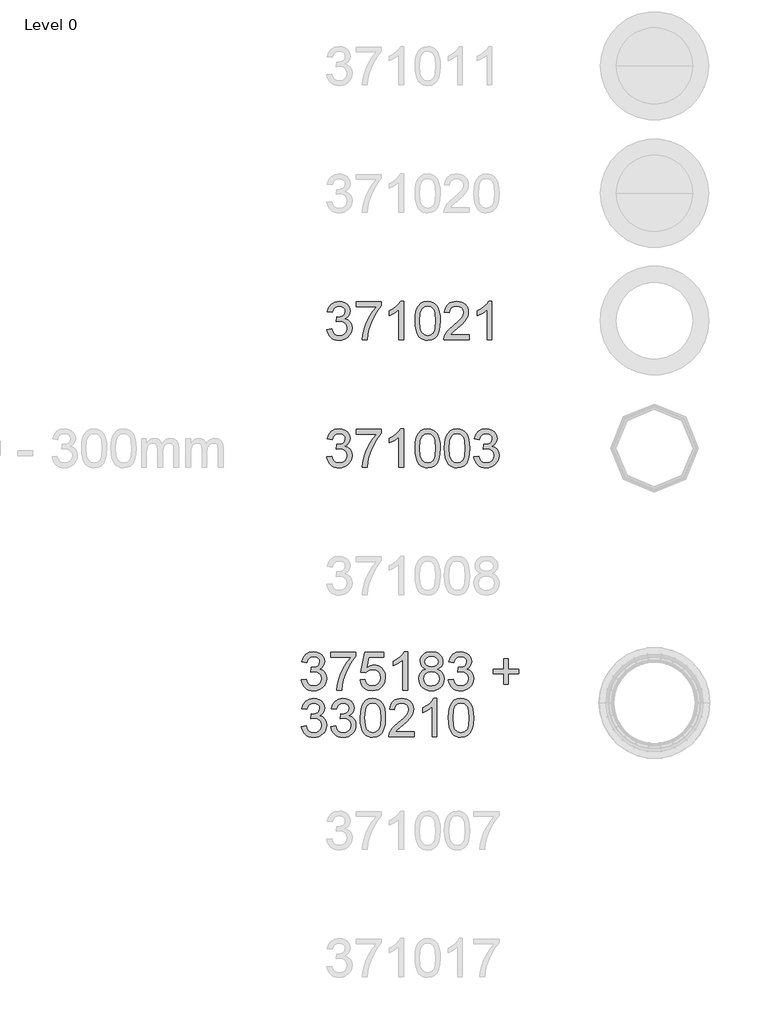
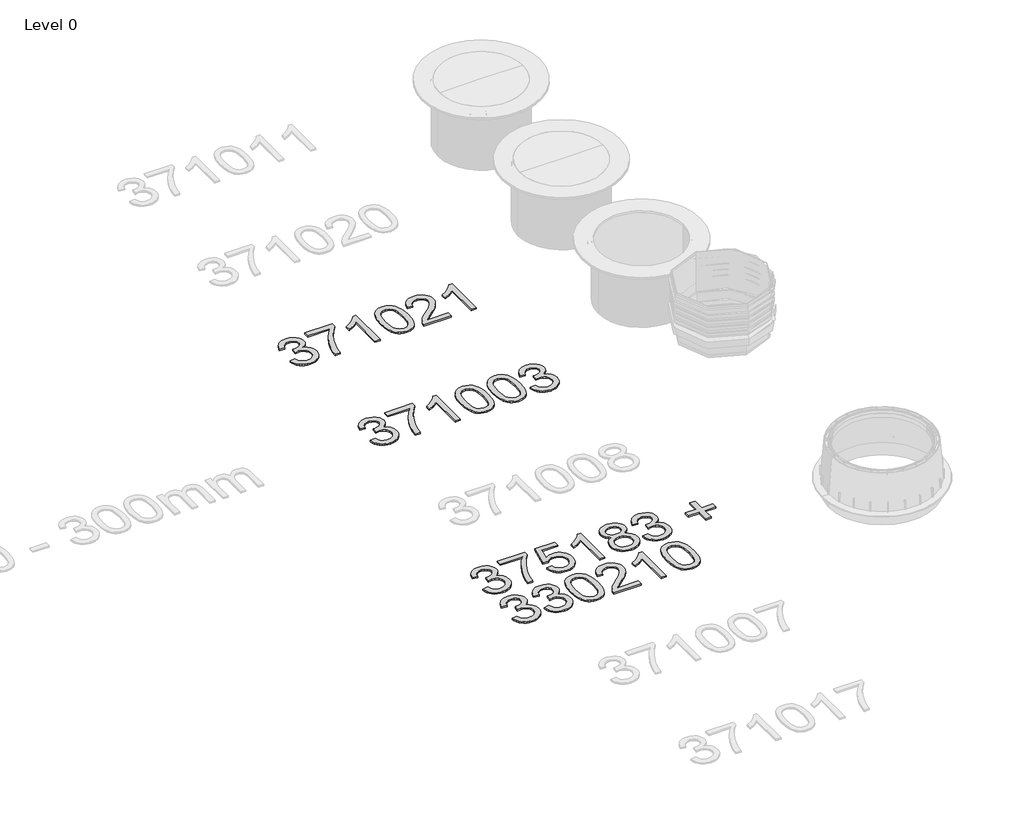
# One storey, part 10 of 19: 3 proxies.
"""IFC4 building model written with IfcOpenShell, lengths in millimetres."""

from ifc_helpers import new_model, si_unit, origin, origin_with_axes, place, context, project, spatial, polyline, outline, extrude, element, save

model = new_model("IFC4")

# Units and contexts
model_context = context("Model", 3, world=origin())
ifc_project = project(units=[si_unit("LENGTHUNIT", "METRE", prefix="MILLI")], contexts=[model_context])

# Site, building, storey
site = spatial("IfcSite", under=ifc_project)
building = spatial("IfcBuilding", under=site)
storey = spatial("IfcBuildingStorey", under=building, Name="Level 0", Elevation=0.0)

# Proxies
placement = place(None, origin())
element("IfcBuildingElementProxy", 1, Name="300mm Arial", ObjectType="300mm Arial", at=placement, inside=storey, context=model_context, shape_type="SweptSolid", body=[
    extrude(outline(polyline([(-6342.0538732, -12120.650521), (-6304.3827568, -12115.9416315), (-6295.9490621, -12139.6148379), (-6283.5974241, -12155.5993106), (-6266.7208376, -12164.7043899), (-6244.7122972, -12167.7394164), (-6218.8869812, -12163.5639558), (-6198.947777, -12151.0375738), (-6186.2006659, -12132.3491685), (-6181.9516289, -12109.6876376), (-6186.1638777, -12088.1757379), (-6198.8006242, -12070.7289343), (-6217.930488, -12059.1682426), (-6241.6220885, -12055.3146787), (-6268.0360157, -12059.434957), (-6263.842161, -12021.7638407), (-6257.8088963, -12022.2052991), (-6235.2393359, -12019.5013664), (-6215.0610084, -12011.3895685), (-6200.8239752, -11997.66757), (-6196.0782975, -11978.1330361), (-6199.5179941, -11961.8634549), (-6209.8370841, -11948.6656883), (-6225.5824335, -11939.9192938), (-6245.3009084, -11937.003829), (-6265.0561716, -11939.946885), (-6281.2061912, -11948.7760529), (-6292.9968091, -11963.4913327), (-6299.6738673, -11984.0927244), (-6337.3449836, -11979.3838349), (-6326.2533415, -11945.5570854), (-6306.5164724, -11920.3019864), (-6279.513934, -11904.5750312), (-6246.6252836, -11899.3327127), (-6222.9428802, -11901.9170837), (-6201.1918572, -11909.6701968), (-6182.8529397, -11921.9022731), (-6169.4068528, -11937.923534), (-6161.1570991, -11956.3820131), (-6158.4071812, -11975.9257441), (-6161.0191433, -11994.1359029), (-6168.8550298, -12010.6538045), (-6181.8044761, -12024.7252908), (-6199.7571174, -12035.5962037), (-6176.1758815, -12045.1243474), (-6158.7014868, -12061.3479434), (-6147.8857561, -12083.3840749), (-6144.2805125, -12110.3498252), (-6146.0831343, -12129.4612948), (-6151.4909997, -12147.0644483), (-6160.5041085, -12163.1592856), (-6173.122461, -12177.7458067), (-6188.4953298, -12189.8491243), (-6205.771988, -12198.4943512), (-6224.9524356, -12203.6814873), (-6246.0366724, -12205.4105327), (-6265.0929598, -12203.9344062), (-6282.4569899, -12199.5060267), (-6298.1287629, -12192.1253942), (-6312.1082787, -12181.7925086), (-6323.8299188, -12169.1143754), (-6332.7280646, -12154.6979997), (-6338.802716, -12138.5433816), (-6342.0538732, -12120.650521)])), origin_with_axes(), (0.0, 0.0, 1.0), 10.0),
    extrude(outline(polyline([(-6111.3182858, -11941.7127186), (-6111.3182858, -11904.0416023), (-5913.5449252, -11904.0416023), (-5913.5449252, -11934.5022315), (-5941.7338831, -11970.1775879), (-5969.6469294, -12015.546635), (-5994.267432, -12066.4707002), (-6012.5787583, -12118.811111), (-6021.555079, -12157.9721494), (-6026.5582741, -12200.7016432), (-6064.2293904, -12200.7016432), (-6060.1550973, -12161.8716986), (-6049.2565932, -12115.7209023), (-6031.8281837, -12066.801794), (-6008.1641743, -12019.6669133), (-5980.5362365, -11977.0569813), (-5951.2160415, -11941.7127186), (-6111.3182858, -11941.7127186)])), origin_with_axes(), (0.0, 0.0, 1.0), 10.0),
    extrude(outline(polyline([(-5739.3160123, -12200.7016432), (-5776.9871286, -12200.7016432), (-5776.9871286, -11965.8457775), (-5812.6716821, -11991.2664233), (-5852.3293612, -12010.2859225), (-5852.3293612, -11974.6749453), (-5822.7424517, -11958.580108), (-5797.1102737, -11939.4318502), (-5776.9043551, -11919.0695818), (-5763.5962239, -11899.3327127), (-5739.3160123, -11899.3327127), (-5739.3160123, -12200.7016432)])), origin_with_axes(), (0.0, 0.0, 1.0), 10.0),
    extrude(outline(polyline([(-5649.847111, -12052.4451991), (-5647.078799, -12004.2066725), (-5638.773863, -11965.7354129), (-5625.0150764, -11936.442809), (-5605.8852126, -11915.7402497), (-5581.246316, -11903.434597), (-5550.9604307, -11899.3327127), (-5527.7470768, -11901.7607339), (-5506.9617441, -11909.0447974), (-5489.5793198, -11920.8997947), (-5476.5746913, -11937.0406172), (-5466.752242, -11957.3293093), (-5458.9163555, -11981.627915), (-5453.7844017, -12012.4840174), (-5452.0737504, -12052.4451991), (-5454.8144713, -12100.4078142), (-5463.0366339, -12138.7871034), (-5476.7126471, -12168.1072984), (-5495.8149197, -12188.8926311), (-5520.5089986, -12201.2810573), (-5550.9604307, -12205.4105327), (-5571.7089753, -12203.617108), (-5590.103075, -12198.2368338), (-5606.14273, -12189.2697102), (-5619.8279402, -12176.7157371), (-5632.9613275, -12154.0220165), (-5642.3423183, -12125.7456867), (-5647.9709129, -12091.8867475), (-5649.847111, -12052.4451991)]), holes=[polyline([(-5612.1759947, -12052.3716227), (-5607.7614108, -12111.6282151), (-5602.2431809, -12131.8962138), (-5594.517659, -12145.9240141), (-5574.799184, -12162.2855658), (-5550.9604307, -12167.7394164), (-5527.1216774, -12162.2671717), (-5507.4032025, -12145.8504377), (-5499.6776806, -12131.7996447), (-5494.1594507, -12111.5362446), (-5489.7448667, -12052.3716227), (-5494.0122979, -11994.4486026), (-5499.3465868, -11974.2472825), (-5506.8145913, -11959.8860891), (-5526.496278, -11942.7243941), (-5551.4018891, -11937.003829), (-5574.983125, -11942.0438124), (-5593.9290478, -11957.1637624), (-5601.9120871, -11972.7987472), (-5607.614258, -11993.8783855), (-5612.1759947, -12052.3716227)])]), origin_with_axes(), (0.0, 0.0, 1.0), 10.0),
    extrude(outline(polyline([(-5226.0470526, -12163.0305269), (-5226.0470526, -12200.7016432), (-5423.8204132, -12200.7016432), (-5419.7737112, -12174.7291743), (-5410.4846909, -12154.4312852), (-5396.8914511, -12134.7404014), (-5377.2281585, -12114.1298127), (-5349.7289794, -12091.0728086), (-5309.0780189, -12054.9651908), (-5284.6874426, -12028.3121402), (-5272.4921545, -12006.6806789), (-5268.4270584, -11985.6378288), (-5272.2622282, -11966.7746795), (-5283.7677376, -11951.0937094), (-5301.4536645, -11940.5262991), (-5323.8300869, -11937.003829), (-5347.3285493, -11940.4435257), (-5365.5846934, -11950.7626156), (-5377.3661143, -11967.1517585), (-5381.4404073, -11988.801614), (-5419.1115237, -11984.0927244), (-5409.9788531, -11947.6540128), (-5401.4324945, -11933.1180755), (-5390.232787, -11921.0377504), (-5376.6372481, -11911.5417964), (-5360.903395, -11904.7589722), (-5323.0207465, -11899.3327127), (-5302.8309228, -11900.8410289), (-5284.8621866, -11905.3659774), (-5269.1145379, -11912.9075583), (-5255.5879768, -11923.4657716), (-5244.7239616, -11936.258868), (-5236.9639508, -11950.5050983), (-5232.3079443, -11966.2044624), (-5230.7559421, -11983.3569604), (-5232.4298052, -12001.3739811), (-5237.4513944, -12019.0783022), (-5246.3633358, -12037.0861258), (-5259.7082551, -12056.0136545), (-5280.9810315, -12078.610806), (-5313.6765438, -12107.6274984), (-5357.0130429, -12143.8638749), (-5374.009191, -12163.0305269), (-5226.0470526, -12163.0305269)])), origin_with_axes(), (0.0, 0.0, 1.0), 10.0),
    extrude(outline(polyline([(-5047.1092501, -12200.7016432), (-5084.7803664, -12200.7016432), (-5084.7803664, -11965.8457775), (-5120.46492, -11991.2664233), (-5160.1225991, -12010.2859225), (-5160.1225991, -11974.6749453), (-5130.5356896, -11958.580108), (-5104.9035116, -11939.4318502), (-5084.697593, -11919.0695818), (-5071.3894618, -11899.3327127), (-5047.1092501, -11899.3327127), (-5047.1092501, -12200.7016432)])), origin_with_axes(), (0.0, 0.0, 1.0), 10.0),
])
element("IfcBuildingElementProxy", 2, Name="300mm Arial", ObjectType="300mm Arial", at=placement, inside=storey, context=model_context, shape_type="SweptSolid", body=[
    extrude(outline(polyline([(-6342.0538732, -13120.650521), (-6304.3827568, -13115.9416315), (-6295.9490621, -13139.6148379), (-6283.5974241, -13155.5993106), (-6266.7208376, -13164.7043899), (-6244.7122972, -13167.7394164), (-6218.8869812, -13163.5639558), (-6198.947777, -13151.0375738), (-6186.2006659, -13132.3491685), (-6181.9516289, -13109.6876376), (-6186.1638777, -13088.1757379), (-6198.8006242, -13070.7289343), (-6217.930488, -13059.1682426), (-6241.6220885, -13055.3146787), (-6268.0360157, -13059.434957), (-6263.842161, -13021.7638407), (-6257.8088963, -13022.2052991), (-6235.2393359, -13019.5013664), (-6215.0610084, -13011.3895685), (-6200.8239752, -12997.66757), (-6196.0782975, -12978.1330361), (-6199.5179941, -12961.8634549), (-6209.8370841, -12948.6656883), (-6225.5824335, -12939.9192938), (-6245.3009084, -12937.003829), (-6265.0561716, -12939.946885), (-6281.2061912, -12948.7760529), (-6292.9968091, -12963.4913327), (-6299.6738673, -12984.0927244), (-6337.3449836, -12979.3838349), (-6326.2533415, -12945.5570854), (-6306.5164724, -12920.3019864), (-6279.513934, -12904.5750312), (-6246.6252836, -12899.3327127), (-6222.9428802, -12901.9170837), (-6201.1918572, -12909.6701968), (-6182.8529397, -12921.9022731), (-6169.4068528, -12937.923534), (-6161.1570991, -12956.3820131), (-6158.4071812, -12975.9257441), (-6161.0191433, -12994.1359029), (-6168.8550298, -13010.6538045), (-6181.8044761, -13024.7252908), (-6199.7571174, -13035.5962037), (-6176.1758815, -13045.1243474), (-6158.7014868, -13061.3479434), (-6147.8857561, -13083.3840749), (-6144.2805125, -13110.3498252), (-6146.0831343, -13129.4612948), (-6151.4909997, -13147.0644483), (-6160.5041085, -13163.1592856), (-6173.122461, -13177.7458067), (-6188.4953298, -13189.8491243), (-6205.771988, -13198.4943512), (-6224.9524356, -13203.6814873), (-6246.0366724, -13205.4105327), (-6265.0929598, -13203.9344062), (-6282.4569899, -13199.5060267), (-6298.1287629, -13192.1253942), (-6312.1082787, -13181.7925086), (-6323.8299188, -13169.1143754), (-6332.7280646, -13154.6979997), (-6338.802716, -13138.5433816), (-6342.0538732, -13120.650521)])), origin_with_axes(), (0.0, 0.0, 1.0), 10.0),
    extrude(outline(polyline([(-6111.3182858, -12941.7127186), (-6111.3182858, -12904.0416023), (-5913.5449252, -12904.0416023), (-5913.5449252, -12934.5022315), (-5941.7338831, -12970.1775879), (-5969.6469294, -13015.546635), (-5994.267432, -13066.4707002), (-6012.5787583, -13118.811111), (-6021.555079, -13157.9721494), (-6026.5582741, -13200.7016432), (-6064.2293904, -13200.7016432), (-6060.1550973, -13161.8716986), (-6049.2565932, -13115.7209023), (-6031.8281837, -13066.801794), (-6008.1641743, -13019.6669133), (-5980.5362365, -12977.0569813), (-5951.2160415, -12941.7127186), (-6111.3182858, -12941.7127186)])), origin_with_axes(), (0.0, 0.0, 1.0), 10.0),
    extrude(outline(polyline([(-5739.3160123, -13200.7016432), (-5776.9871286, -13200.7016432), (-5776.9871286, -12965.8457775), (-5812.6716821, -12991.2664233), (-5852.3293612, -13010.2859225), (-5852.3293612, -12974.6749453), (-5822.7424517, -12958.580108), (-5797.1102737, -12939.4318502), (-5776.9043551, -12919.0695818), (-5763.5962239, -12899.3327127), (-5739.3160123, -12899.3327127), (-5739.3160123, -13200.7016432)])), origin_with_axes(), (0.0, 0.0, 1.0), 10.0),
    extrude(outline(polyline([(-5649.847111, -13052.4451991), (-5647.078799, -13004.2066725), (-5638.773863, -12965.7354129), (-5625.0150764, -12936.442809), (-5605.8852126, -12915.7402497), (-5581.246316, -12903.434597), (-5550.9604307, -12899.3327127), (-5527.7470768, -12901.7607339), (-5506.9617441, -12909.0447974), (-5489.5793198, -12920.8997947), (-5476.5746913, -12937.0406172), (-5466.752242, -12957.3293093), (-5458.9163555, -12981.627915), (-5453.7844017, -13012.4840174), (-5452.0737504, -13052.4451991), (-5454.8144713, -13100.4078142), (-5463.0366339, -13138.7871034), (-5476.7126471, -13168.1072984), (-5495.8149197, -13188.8926311), (-5520.5089986, -13201.2810573), (-5550.9604307, -13205.4105327), (-5571.7089753, -13203.617108), (-5590.103075, -13198.2368338), (-5606.14273, -13189.2697102), (-5619.8279402, -13176.7157371), (-5632.9613275, -13154.0220165), (-5642.3423183, -13125.7456867), (-5647.9709129, -13091.8867475), (-5649.847111, -13052.4451991)]), holes=[polyline([(-5612.1759947, -13052.3716227), (-5607.7614108, -13111.6282151), (-5602.2431809, -13131.8962138), (-5594.517659, -13145.9240141), (-5574.799184, -13162.2855658), (-5550.9604307, -13167.7394164), (-5527.1216774, -13162.2671717), (-5507.4032025, -13145.8504377), (-5499.6776806, -13131.7996447), (-5494.1594507, -13111.5362446), (-5489.7448667, -13052.3716227), (-5494.0122979, -12994.4486026), (-5499.3465868, -12974.2472825), (-5506.8145913, -12959.8860891), (-5526.496278, -12942.7243941), (-5551.4018891, -12937.003829), (-5574.983125, -12942.0438124), (-5593.9290478, -12957.1637624), (-5601.9120871, -12972.7987472), (-5607.614258, -12993.8783855), (-5612.1759947, -13052.3716227)])]), origin_with_axes(), (0.0, 0.0, 1.0), 10.0),
    extrude(outline(polyline([(-5419.1115237, -13052.4451991), (-5416.3432116, -13004.2066725), (-5408.0382756, -12965.7354129), (-5394.279489, -12936.442809), (-5375.1496252, -12915.7402497), (-5350.5107286, -12903.434597), (-5320.2248434, -12899.3327127), (-5297.0114895, -12901.7607339), (-5276.2261567, -12909.0447974), (-5258.8437325, -12920.8997947), (-5245.8391039, -12937.0406172), (-5236.0166547, -12957.3293093), (-5228.1807682, -12981.627915), (-5223.0488143, -13012.4840174), (-5221.338163, -13052.4451991), (-5224.0788839, -13100.4078142), (-5232.3010465, -13138.7871034), (-5245.9770597, -13168.1072984), (-5265.0793323, -13188.8926311), (-5289.7734112, -13201.2810573), (-5320.2248434, -13205.4105327), (-5340.9733879, -13203.617108), (-5359.3674876, -13198.2368338), (-5375.4071426, -13189.2697102), (-5389.0923528, -13176.7157371), (-5402.2257401, -13154.0220165), (-5411.606731, -13125.7456867), (-5417.2353255, -13091.8867475), (-5419.1115237, -13052.4451991)]), holes=[polyline([(-5381.4404073, -13052.3716227), (-5377.0258234, -13111.6282151), (-5371.5075935, -13131.8962138), (-5363.7820716, -13145.9240141), (-5344.0635966, -13162.2855658), (-5320.2248434, -13167.7394164), (-5296.3860901, -13162.2671717), (-5276.6676151, -13145.8504377), (-5268.9420932, -13131.7996447), (-5263.4238633, -13111.5362446), (-5259.0092794, -13052.3716227), (-5263.2767105, -12994.4486026), (-5268.6109994, -12974.2472825), (-5276.0790039, -12959.8860891), (-5295.7606907, -12942.7243941), (-5320.6663017, -12937.003829), (-5344.2475376, -12942.0438124), (-5363.1934604, -12957.1637624), (-5371.1764997, -12972.7987472), (-5376.8786706, -12993.8783855), (-5381.4404073, -13052.3716227)])]), origin_with_axes(), (0.0, 0.0, 1.0), 10.0),
    extrude(outline(polyline([(-5188.3759363, -13120.650521), (-5150.70482, -13115.9416315), (-5142.2711252, -13139.6148379), (-5129.9194872, -13155.5993106), (-5113.0429007, -13164.7043899), (-5091.0343604, -13167.7394164), (-5065.2090443, -13163.5639558), (-5045.2698402, -13151.0375738), (-5032.522729, -13132.3491685), (-5028.273692, -13109.6876376), (-5032.4859408, -13088.1757379), (-5045.1226874, -13070.7289343), (-5064.2525511, -13059.1682426), (-5087.9441516, -13055.3146787), (-5114.3580789, -13059.434957), (-5110.1642241, -13021.7638407), (-5104.1309594, -13022.2052991), (-5081.561399, -13019.5013664), (-5061.3830715, -13011.3895685), (-5047.1460383, -12997.66757), (-5042.4003606, -12978.1330361), (-5045.8400572, -12961.8634549), (-5056.1591472, -12948.6656883), (-5071.9044966, -12939.9192938), (-5091.6229715, -12937.003829), (-5111.3782347, -12939.946885), (-5127.5282543, -12948.7760529), (-5139.3188722, -12963.4913327), (-5145.9959304, -12984.0927244), (-5183.6670467, -12979.3838349), (-5172.5754046, -12945.5570854), (-5152.8385355, -12920.3019864), (-5125.8359971, -12904.5750312), (-5092.9473467, -12899.3327127), (-5069.2649433, -12901.9170837), (-5047.5139203, -12909.6701968), (-5029.1750029, -12921.9022731), (-5015.7289159, -12937.923534), (-5007.4791622, -12956.3820131), (-5004.7292443, -12975.9257441), (-5007.3412065, -12994.1359029), (-5015.177093, -13010.6538045), (-5028.1265392, -13024.7252908), (-5046.0791805, -13035.5962037), (-5022.4979447, -13045.1243474), (-5005.0235499, -13061.3479434), (-4994.2078192, -13083.3840749), (-4990.6025757, -13110.3498252), (-4992.4051975, -13129.4612948), (-4997.8130628, -13147.0644483), (-5006.8261717, -13163.1592856), (-5019.4445241, -13177.7458067), (-5034.817393, -13189.8491243), (-5052.0940512, -13198.4943512), (-5071.2744987, -13203.6814873), (-5092.3587355, -13205.4105327), (-5111.4150229, -13203.9344062), (-5128.7790531, -13199.5060267), (-5144.4508261, -13192.1253942), (-5158.4303419, -13181.7925086), (-5170.1519819, -13169.1143754), (-5179.0501277, -13154.6979997), (-5185.1247791, -13138.5433816), (-5188.3759363, -13120.650521)])), origin_with_axes(), (0.0, 0.0, 1.0), 10.0),
])
element("IfcBuildingElementProxy", 3, Name="300mm Arial", ObjectType="300mm Arial", at=placement, inside=storey, context=model_context, shape_type="SweptSolid", body=[
    extrude(outline(polyline([(-6542.0538732, -14870.650521), (-6504.3827568, -14865.9416315), (-6495.9490621, -14889.6148379), (-6483.5974241, -14905.5993106), (-6466.7208376, -14914.7043899), (-6444.7122972, -14917.7394164), (-6418.8869812, -14913.5639558), (-6398.947777, -14901.0375738), (-6386.2006659, -14882.3491685), (-6381.9516289, -14859.6876376), (-6386.1638777, -14838.1757379), (-6398.8006242, -14820.7289343), (-6417.930488, -14809.1682426), (-6441.6220885, -14805.3146787), (-6468.0360157, -14809.434957), (-6463.842161, -14771.7638407), (-6457.8088963, -14772.2052991), (-6435.2393359, -14769.5013664), (-6415.0610084, -14761.3895685), (-6400.8239752, -14747.66757), (-6396.0782975, -14728.1330361), (-6399.5179941, -14711.8634549), (-6409.8370841, -14698.6656883), (-6425.5824335, -14689.9192938), (-6445.3009084, -14687.003829), (-6465.0561716, -14689.946885), (-6481.2061912, -14698.7760529), (-6492.9968091, -14713.4913327), (-6499.6738673, -14734.0927244), (-6537.3449836, -14729.3838349), (-6526.2533415, -14695.5570854), (-6506.5164724, -14670.3019864), (-6479.513934, -14654.5750312), (-6446.6252836, -14649.3327127), (-6422.9428802, -14651.9170837), (-6401.1918572, -14659.6701968), (-6382.8529397, -14671.9022731), (-6369.4068528, -14687.923534), (-6361.1570991, -14706.3820131), (-6358.4071812, -14725.9257441), (-6361.0191433, -14744.1359029), (-6368.8550298, -14760.6538045), (-6381.8044761, -14774.7252908), (-6399.7571174, -14785.5962037), (-6376.1758815, -14795.1243474), (-6358.7014868, -14811.3479434), (-6347.8857561, -14833.3840749), (-6344.2805125, -14860.3498252), (-6346.0831343, -14879.4612948), (-6351.4909997, -14897.0644483), (-6360.5041085, -14913.1592856), (-6373.122461, -14927.7458067), (-6388.4953298, -14939.8491243), (-6405.771988, -14948.4943512), (-6424.9524356, -14953.6814873), (-6446.0366724, -14955.4105327), (-6465.0929598, -14953.9344062), (-6482.4569899, -14949.5060267), (-6498.1287629, -14942.1253942), (-6512.1082787, -14931.7925086), (-6523.8299188, -14919.1143754), (-6532.7280646, -14904.6979997), (-6538.802716, -14888.5433816), (-6542.0538732, -14870.650521)])), origin_with_axes(), (0.0, 0.0, 1.0), 10.0),
    extrude(outline(polyline([(-6311.3182858, -14691.7127186), (-6311.3182858, -14654.0416023), (-6113.5449252, -14654.0416023), (-6113.5449252, -14684.5022315), (-6141.7338831, -14720.1775879), (-6169.6469294, -14765.546635), (-6194.267432, -14816.4707002), (-6212.5787583, -14868.811111), (-6221.555079, -14907.9721494), (-6226.5582741, -14950.7016432), (-6264.2293904, -14950.7016432), (-6260.1550973, -14911.8716986), (-6249.2565932, -14865.7209023), (-6231.8281837, -14816.801794), (-6208.1641743, -14769.6669133), (-6180.5362365, -14727.0569813), (-6151.2160415, -14691.7127186), (-6311.3182858, -14691.7127186)])), origin_with_axes(), (0.0, 0.0, 1.0), 10.0),
    extrude(outline(polyline([(-6080.5826984, -14870.650521), (-6042.9115821, -14865.9416315), (-6035.9954006, -14888.5571771), (-6023.9288711, -14904.753182), (-6006.7671761, -14914.4928578), (-5984.5654977, -14917.7394164), (-5957.5629592, -14913.2236649), (-5937.3294495, -14899.6764104), (-5924.6927029, -14878.6611515), (-5920.4804541, -14851.7413865), (-5924.4259885, -14826.394317), (-5936.2625917, -14807.0069359), (-5956.0822342, -14794.7012831), (-5983.9768865, -14790.5993989), (-6002.2514246, -14792.2364738), (-6017.0494778, -14797.1476984), (-6038.2026926, -14814.1438466), (-6075.8738089, -14809.434957), (-6042.9115821, -14654.0416023), (-5896.9360064, -14654.0416023), (-5896.9360064, -14691.7127186), (-6012.4509529, -14691.7127186), (-6028.5641843, -14774.7068967), (-6001.6536163, -14758.3729361), (-5973.4554614, -14752.9282826), (-5955.1096462, -14754.6159412), (-5938.2583515, -14759.6789172), (-5922.9015775, -14768.1172104), (-5909.0393241, -14779.930821), (-5897.5637051, -14794.3977805), (-5889.3668344, -14810.7961204), (-5884.4487119, -14829.1258408), (-5882.8093378, -14849.3869417), (-5888.7138438, -14887.058058), (-5896.0944763, -14903.8518711), (-5906.4273619, -14919.2845208), (-5922.0807408, -14935.089651), (-5940.3460818, -14946.3790297), (-5961.2233851, -14953.152657), (-5984.7126505, -14955.4105327), (-6021.7123821, -14949.6071942), (-6037.3910529, -14942.3530211), (-6051.188927, -14932.1971788), (-6062.6691445, -14919.645505), (-6071.3948456, -14905.2038374), (-6080.5826984, -14870.650521)])), origin_with_axes(), (0.0, 0.0, 1.0), 10.0),
    extrude(outline(polyline([(-5708.5804249, -14950.7016432), (-5746.2515412, -14950.7016432), (-5746.2515412, -14715.8457775), (-5781.9360947, -14741.2664233), (-5821.5937738, -14760.2859225), (-5821.5937738, -14724.6749453), (-5792.0068643, -14708.580108), (-5766.3746863, -14689.4318502), (-5746.1687677, -14669.0695818), (-5732.8606366, -14649.3327127), (-5708.5804249, -14649.3327127), (-5708.5804249, -14950.7016432)])), origin_with_axes(), (0.0, 0.0, 1.0), 10.0),
    extrude(outline(polyline([(-5564.22353, -14784.7132869), (-5584.3926604, -14774.7804731), (-5598.5469201, -14761.3159921), (-5606.9070385, -14744.5957554), (-5609.6937446, -14724.8956745), (-5608.1762313, -14709.5320027), (-5603.6236917, -14695.4467208), (-5596.0361255, -14682.6398289), (-5585.4135329, -14671.1113268), (-5572.2663501, -14661.5831832), (-5557.1050134, -14654.7773663), (-5520.7398781, -14649.3327127), (-5484.1540137, -14654.906125), (-5468.8271301, -14661.8728902), (-5455.4776122, -14671.6263616), (-5444.6618815, -14683.3801914), (-5436.9363596, -14696.3480317), (-5432.3010465, -14710.5298826), (-5430.7559421, -14725.9257441), (-5433.50586, -14744.9912285), (-5441.7556138, -14761.4263567), (-5455.5971738, -14774.8080642), (-5475.1225107, -14784.7132869), (-5451.936748, -14796.6602547), (-5435.0601615, -14814.2542112), (-5424.7686627, -14836.6490276), (-5421.338163, -14862.9985755), (-5423.0396173, -14881.7881484), (-5428.14398, -14899.0142229), (-5436.6512511, -14914.6767988), (-5448.5614307, -14928.7758763), (-5463.2491193, -14940.4285385), (-5480.0889177, -14948.7518686), (-5499.0808257, -14953.7458667), (-5520.2248434, -14955.4105327), (-5541.368861, -14953.7389689), (-5560.360769, -14948.7242774), (-5577.2005674, -14940.3664584), (-5591.888256, -14928.6655117), (-5603.7984356, -14914.4675659), (-5612.3057067, -14898.6187497), (-5617.4100694, -14881.119063), (-5619.1115237, -14861.9685059), (-5615.5430683, -14834.5980855), (-5604.8377022, -14812.0837074), (-5587.5472485, -14795.1979238), (-5564.22353, -14784.7132869)]), holes=[polyline([(-5572.0226283, -14725.9993205), (-5568.6840992, -14742.4436457), (-5558.6685118, -14755.5770329), (-5542.2701719, -14764.1854716), (-5519.783385, -14767.0549512), (-5497.8208298, -14764.2038657), (-5481.6708103, -14755.6506093), (-5471.7379964, -14742.9586805), (-5468.4270584, -14727.6915777), (-5471.848361, -14711.8450608), (-5482.1122687, -14698.7392647), (-5498.4830174, -14689.9376879), (-5520.2248434, -14687.003829), (-5542.104625, -14689.8733086), (-5558.4477827, -14698.4817473), (-5568.6289169, -14711.1000997), (-5572.0226283, -14725.9993205)]), polyline([(-5581.4404073, -14860.6441308), (-5575.1496252, -14889.0078326), (-5566.440019, -14901.1755296), (-5552.8927645, -14910.2346237), (-5536.6691685, -14915.8632182), (-5519.9305378, -14917.7394164), (-5494.2891627, -14913.793882), (-5475.0489343, -14901.9572788), (-5463.0191931, -14884.0322286), (-5459.0092794, -14861.8213531), (-5463.1479518, -14839.2333986), (-5475.5639691, -14820.9128753), (-5495.2456559, -14808.7727694), (-5521.1813365, -14804.7260675), (-5546.4640267, -14808.7175871), (-5565.511117, -14820.6921461), (-5577.4580848, -14838.6631815), (-5581.4404073, -14860.6441308)])]), origin_with_axes(), (0.0, 0.0, 1.0), 10.0),
    extrude(outline(polyline([(-5388.3759363, -14870.650521), (-5350.70482, -14865.9416315), (-5342.2711252, -14889.6148379), (-5329.9194872, -14905.5993106), (-5313.0429007, -14914.7043899), (-5291.0343604, -14917.7394164), (-5265.2090443, -14913.5639558), (-5245.2698402, -14901.0375738), (-5232.522729, -14882.3491685), (-5228.273692, -14859.6876376), (-5232.4859408, -14838.1757379), (-5245.1226874, -14820.7289343), (-5264.2525511, -14809.1682426), (-5287.9441516, -14805.3146787), (-5314.3580789, -14809.434957), (-5310.1642241, -14771.7638407), (-5304.1309594, -14772.2052991), (-5281.561399, -14769.5013664), (-5261.3830715, -14761.3895685), (-5247.1460383, -14747.66757), (-5242.4003606, -14728.1330361), (-5245.8400572, -14711.8634549), (-5256.1591472, -14698.6656883), (-5271.9044966, -14689.9192938), (-5291.6229715, -14687.003829), (-5311.3782347, -14689.946885), (-5327.5282543, -14698.7760529), (-5339.3188722, -14713.4913327), (-5345.9959304, -14734.0927244), (-5383.6670467, -14729.3838349), (-5372.5754046, -14695.5570854), (-5352.8385355, -14670.3019864), (-5325.8359971, -14654.5750312), (-5292.9473467, -14649.3327127), (-5269.2649433, -14651.9170837), (-5247.5139203, -14659.6701968), (-5229.1750029, -14671.9022731), (-5215.7289159, -14687.923534), (-5207.4791622, -14706.3820131), (-5204.7292443, -14725.9257441), (-5207.3412065, -14744.1359029), (-5215.177093, -14760.6538045), (-5228.1265392, -14774.7252908), (-5246.0791805, -14785.5962037), (-5222.4979447, -14795.1243474), (-5205.0235499, -14811.3479434), (-5194.2078192, -14833.3840749), (-5190.6025757, -14860.3498252), (-5192.4051975, -14879.4612948), (-5197.8130628, -14897.0644483), (-5206.8261717, -14913.1592856), (-5219.4445241, -14927.7458067), (-5234.817393, -14939.8491243), (-5252.0940512, -14948.4943512), (-5271.2744987, -14953.6814873), (-5292.3587355, -14955.4105327), (-5311.4150229, -14953.9344062), (-5328.7790531, -14949.5060267), (-5344.4508261, -14942.1253942), (-5358.4303419, -14931.7925086), (-5370.1519819, -14919.1143754), (-5379.0501277, -14904.6979997), (-5385.1247791, -14888.5433816), (-5388.3759363, -14870.650521)])), origin_with_axes(), (0.0, 0.0, 1.0), 10.0),
    extrude(outline(polyline([(-4955.1580988, -14903.6127478), (-4955.1580988, -14823.5616256), (-5035.2092209, -14823.5616256), (-5035.2092209, -14785.8905093), (-4955.1580988, -14785.8905093), (-4955.1580988, -14705.8393872), (-4917.4869825, -14705.8393872), (-4917.4869825, -14785.8905093), (-4837.4358603, -14785.8905093), (-4837.4358603, -14823.5616256), (-4917.4869825, -14823.5616256), (-4917.4869825, -14903.6127478), (-4955.1580988, -14903.6127478)])), origin_with_axes(), (0.0, 0.0, 1.0), 10.0),
    extrude(outline(polyline([(-6542.0538732, -15236.5749746), (-6504.3827568, -15231.866085), (-6495.9490621, -15255.5392914), (-6483.5974241, -15271.5237641), (-6466.7208376, -15280.6288435), (-6444.7122972, -15283.6638699), (-6418.8869812, -15279.4884093), (-6398.947777, -15266.9620274), (-6386.2006659, -15248.273622), (-6381.9516289, -15225.6120911), (-6386.1638777, -15204.1001914), (-6398.8006242, -15186.6533878), (-6417.930488, -15175.0926961), (-6441.6220885, -15171.2391322), (-6468.0360157, -15175.3594106), (-6463.842161, -15137.6882943), (-6457.8088963, -15138.1297526), (-6435.2393359, -15135.42582), (-6415.0610084, -15127.314022), (-6400.8239752, -15113.5920236), (-6396.0782975, -15094.0574896), (-6399.5179941, -15077.7879084), (-6409.8370841, -15064.5901418), (-6425.5824335, -15055.8437474), (-6445.3009084, -15052.9282826), (-6465.0561716, -15055.8713385), (-6481.2061912, -15064.7005064), (-6492.9968091, -15079.4157862), (-6499.6738673, -15100.0171779), (-6537.3449836, -15095.3082884), (-6526.2533415, -15061.481539), (-6506.5164724, -15036.22644), (-6479.513934, -15020.4994847), (-6446.6252836, -15015.2571663), (-6422.9428802, -15017.8415373), (-6401.1918572, -15025.5946503), (-6382.8529397, -15037.8267267), (-6369.4068528, -15053.8479876), (-6361.1570991, -15072.3064667), (-6358.4071812, -15091.8501977), (-6361.0191433, -15110.0603564), (-6368.8550298, -15126.578258), (-6381.8044761, -15140.6497443), (-6399.7571174, -15151.5206573), (-6376.1758815, -15161.0488009), (-6358.7014868, -15177.2723969), (-6347.8857561, -15199.3085284), (-6344.2805125, -15226.2742787), (-6346.0831343, -15245.3857483), (-6351.4909997, -15262.9889018), (-6360.5041085, -15279.0837391), (-6373.122461, -15293.6702602), (-6388.4953298, -15305.7735779), (-6405.771988, -15314.4188047), (-6424.9524356, -15319.6059409), (-6446.0366724, -15321.3349862), (-6465.0929598, -15319.8588597), (-6482.4569899, -15315.4304802), (-6498.1287629, -15308.0498477), (-6512.1082787, -15297.7169622), (-6523.8299188, -15285.0388289), (-6532.7280646, -15270.6224532), (-6538.802716, -15254.4678351), (-6542.0538732, -15236.5749746)])), origin_with_axes(), (0.0, 0.0, 1.0), 10.0),
    extrude(outline(polyline([(-6311.3182858, -15236.5749746), (-6273.6471695, -15231.866085), (-6265.2134747, -15255.5392914), (-6252.8618367, -15271.5237641), (-6235.9852502, -15280.6288435), (-6213.9767099, -15283.6638699), (-6188.1513938, -15279.4884093), (-6168.2121897, -15266.9620274), (-6155.4650785, -15248.273622), (-6151.2160415, -15225.6120911), (-6155.4282903, -15204.1001914), (-6168.0650369, -15186.6533878), (-6187.1949006, -15175.0926961), (-6210.8865011, -15171.2391322), (-6237.3004284, -15175.3594106), (-6233.1065736, -15137.6882943), (-6227.0733089, -15138.1297526), (-6204.5037485, -15135.42582), (-6184.325421, -15127.314022), (-6170.0883878, -15113.5920236), (-6165.3427101, -15094.0574896), (-6168.7824067, -15077.7879084), (-6179.1014967, -15064.5901418), (-6194.8468461, -15055.8437474), (-6214.565321, -15052.9282826), (-6234.3205842, -15055.8713385), (-6250.4706038, -15064.7005064), (-6262.2612217, -15079.4157862), (-6268.9382799, -15100.0171779), (-6306.6093962, -15095.3082884), (-6295.5177541, -15061.481539), (-6275.780885, -15036.22644), (-6248.7783466, -15020.4994847), (-6215.8896962, -15015.2571663), (-6192.2072928, -15017.8415373), (-6170.4562698, -15025.5946503), (-6152.1173524, -15037.8267267), (-6138.6712654, -15053.8479876), (-6130.4215117, -15072.3064667), (-6127.6715938, -15091.8501977), (-6130.283556, -15110.0603564), (-6138.1194425, -15126.578258), (-6151.0688887, -15140.6497443), (-6169.02153, -15151.5206573), (-6145.4402942, -15161.0488009), (-6127.9658994, -15177.2723969), (-6117.1501687, -15199.3085284), (-6113.5449252, -15226.2742787), (-6115.3475469, -15245.3857483), (-6120.7554123, -15262.9889018), (-6129.7685212, -15279.0837391), (-6142.3868736, -15293.6702602), (-6157.7597425, -15305.7735779), (-6175.0364007, -15314.4188047), (-6194.2168482, -15319.6059409), (-6215.301085, -15321.3349862), (-6234.3573724, -15319.8588597), (-6251.7214026, -15315.4304802), (-6267.3931756, -15308.0498477), (-6281.3726914, -15297.7169622), (-6293.0943314, -15285.0388289), (-6301.9924772, -15270.6224532), (-6308.0671286, -15254.4678351), (-6311.3182858, -15236.5749746)])), origin_with_axes(), (0.0, 0.0, 1.0), 10.0),
    extrude(outline(polyline([(-6080.5826984, -15168.3696527), (-6077.8143864, -15120.131126), (-6069.5094504, -15081.6598664), (-6055.7506637, -15052.3672625), (-6036.6208, -15031.6647032), (-6011.9819034, -15019.3590505), (-5981.6960181, -15015.2571663), (-5958.4826642, -15017.6851874), (-5937.6973315, -15024.9692509), (-5920.3149072, -15036.8242482), (-5907.3102787, -15052.9650708), (-5897.4878294, -15073.2537628), (-5889.6519429, -15097.5523686), (-5884.5199891, -15128.4084709), (-5882.8093378, -15168.3696527), (-5885.5500587, -15216.3322678), (-5893.7722213, -15254.7115569), (-5907.4482344, -15284.0317519), (-5926.550507, -15304.8170847), (-5951.244586, -15317.2055109), (-5981.6960181, -15321.3349862), (-6002.4445626, -15319.5415615), (-6020.8386624, -15314.1612873), (-6036.8783174, -15305.1941637), (-6050.5635276, -15292.6401906), (-6063.6969148, -15269.94647), (-6073.0779057, -15241.6701402), (-6078.7065002, -15207.8112011), (-6080.5826984, -15168.3696527)]), holes=[polyline([(-6042.9115821, -15168.2960763), (-6038.4969982, -15227.5526686), (-6032.9787682, -15247.8206673), (-6025.2532463, -15261.8484676), (-6005.5347714, -15278.2100194), (-5981.6960181, -15283.6638699), (-5957.8572648, -15278.1916253), (-5938.1387899, -15261.7748912), (-5930.413268, -15247.7240983), (-5924.895038, -15227.4606981), (-5920.4804541, -15168.2960763), (-5924.7478852, -15110.3730561), (-5930.0821742, -15090.1717361), (-5937.5501787, -15075.8105427), (-5957.2318654, -15058.6488476), (-5982.1374765, -15052.9282826), (-6005.7187124, -15057.9682659), (-6024.6646351, -15073.0882159), (-6032.6476744, -15088.7232007), (-6038.3498454, -15109.802839), (-6042.9115821, -15168.2960763)])]), origin_with_axes(), (0.0, 0.0, 1.0), 10.0),
    extrude(outline(polyline([(-5656.78264, -15278.9549804), (-5656.78264, -15316.6260967), (-5854.5560006, -15316.6260967), (-5850.5092986, -15290.6536278), (-5841.2202782, -15270.3557388), (-5827.6270385, -15250.664855), (-5807.9637459, -15230.0542662), (-5780.4645667, -15206.9972621), (-5739.8136063, -15170.8896443), (-5715.42303, -15144.2365938), (-5703.2277419, -15122.6051325), (-5699.1626458, -15101.5622823), (-5702.9978156, -15082.699133), (-5714.503325, -15067.018163), (-5732.1892519, -15056.4507527), (-5754.5656743, -15052.9282826), (-5778.0641367, -15056.3679792), (-5796.3202807, -15066.6870692), (-5808.1017016, -15083.0762121), (-5812.1759947, -15104.7260675), (-5849.847111, -15100.0171779), (-5840.7144405, -15063.5784663), (-5832.1680819, -15049.042529), (-5820.9683744, -15036.962204), (-5807.3728354, -15027.46625), (-5791.6389823, -15020.6834257), (-5753.7563339, -15015.2571663), (-5733.5665101, -15016.7654824), (-5715.5977739, -15021.290431), (-5699.8501253, -15028.8320119), (-5686.3235642, -15039.3902251), (-5675.459549, -15052.1833215), (-5667.6995382, -15066.4295518), (-5663.0435317, -15082.1289159), (-5661.4915295, -15099.281414), (-5663.1653926, -15117.2984347), (-5668.1869818, -15135.0027557), (-5677.0989231, -15153.0105794), (-5690.4438425, -15171.938108), (-5711.7166189, -15194.5352596), (-5744.4121312, -15223.5519519), (-5787.7486302, -15259.7883285), (-5804.7447784, -15278.9549804), (-5656.78264, -15278.9549804)])), origin_with_axes(), (0.0, 0.0, 1.0), 10.0),
    extrude(outline(polyline([(-5477.8448375, -15316.6260967), (-5515.5159538, -15316.6260967), (-5515.5159538, -15081.770231), (-5551.2005073, -15107.1908769), (-5590.8581864, -15126.210376), (-5590.8581864, -15090.5993989), (-5561.271277, -15074.5045616), (-5535.639099, -15055.3563037), (-5515.4331804, -15034.9940353), (-5502.1250492, -15015.2571663), (-5477.8448375, -15015.2571663), (-5477.8448375, -15316.6260967)])), origin_with_axes(), (0.0, 0.0, 1.0), 10.0),
    extrude(outline(polyline([(-5388.3759363, -15168.3696527), (-5385.6076243, -15120.131126), (-5377.3026882, -15081.6598664), (-5363.5439016, -15052.3672625), (-5344.4140379, -15031.6647032), (-5319.7751412, -15019.3590505), (-5289.489256, -15015.2571663), (-5266.2759021, -15017.6851874), (-5245.4905694, -15024.9692509), (-5228.1081451, -15036.8242482), (-5215.1035166, -15052.9650708), (-5205.2810673, -15073.2537628), (-5197.4451808, -15097.5523686), (-5192.313227, -15128.4084709), (-5190.6025757, -15168.3696527), (-5193.3432965, -15216.3322678), (-5201.5654591, -15254.7115569), (-5215.2414723, -15284.0317519), (-5234.3437449, -15304.8170847), (-5259.0378238, -15317.2055109), (-5289.489256, -15321.3349862), (-5310.2378005, -15319.5415615), (-5328.6319003, -15314.1612873), (-5344.6715553, -15305.1941637), (-5358.3567655, -15292.6401906), (-5371.4901527, -15269.94647), (-5380.8711436, -15241.6701402), (-5386.4997381, -15207.8112011), (-5388.3759363, -15168.3696527)]), holes=[polyline([(-5350.70482, -15168.2960763), (-5346.290236, -15227.5526686), (-5340.7720061, -15247.8206673), (-5333.0464842, -15261.8484676), (-5313.3280093, -15278.2100194), (-5289.489256, -15283.6638699), (-5265.6505027, -15278.1916253), (-5245.9320277, -15261.7748912), (-5238.2065058, -15247.7240983), (-5232.6882759, -15227.4606981), (-5228.273692, -15168.2960763), (-5232.5411231, -15110.3730561), (-5237.8754121, -15090.1717361), (-5245.3434166, -15075.8105427), (-5265.0251033, -15058.6488476), (-5289.9307144, -15052.9282826), (-5313.5119503, -15057.9682659), (-5332.457873, -15073.0882159), (-5340.4409123, -15088.7232007), (-5346.1430832, -15109.802839), (-5350.70482, -15168.2960763)])]), origin_with_axes(), (0.0, 0.0, 1.0), 10.0),
])

save(model, "model.ifc")
